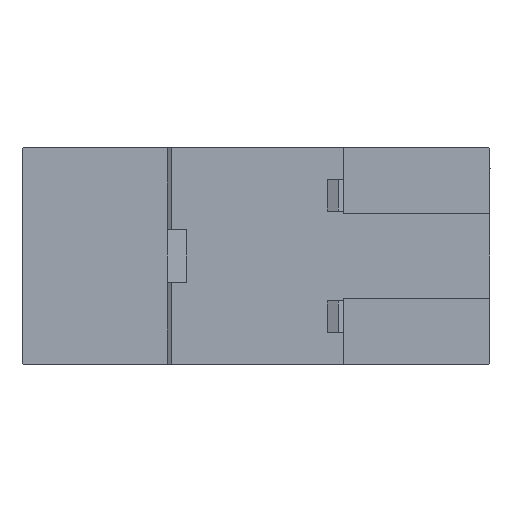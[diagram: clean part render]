
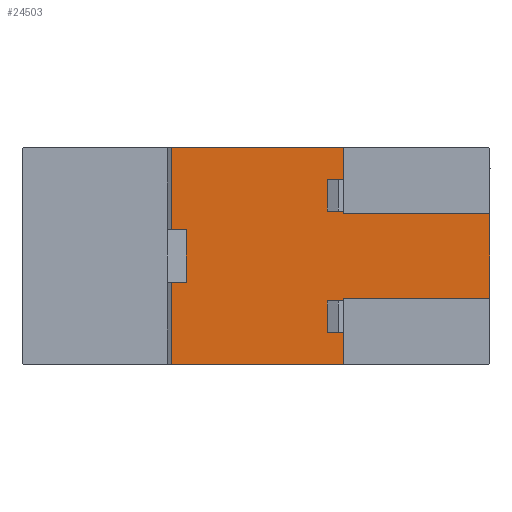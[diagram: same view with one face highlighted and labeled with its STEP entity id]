
A CAD part, front view. The second image highlights one B-rep face of the part: STEP entity #24503.
In plain terms, the highlighted planar face has unit normal (0, -1, 0).
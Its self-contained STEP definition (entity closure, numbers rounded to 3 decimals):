
#5246=DIRECTION('',(-1.,0.,0.));
#5247=VECTOR('',#5246,35.81);
#5248=CARTESIAN_POINT('',(23.334,29.906,20.5));
#5249=LINE('',#5248,#5247);
#5570=DIRECTION('',(0.,0.,-1.));
#5571=VECTOR('',#5570,0.5);
#5572=CARTESIAN_POINT('',(23.334,29.906,8.5));
#5573=LINE('',#5572,#5571);
#5577=DIRECTION('',(1.,0.,0.));
#5578=VECTOR('',#5577,24.44);
#5579=CARTESIAN_POINT('',(23.334,29.906,8.));
#5580=LINE('',#5579,#5578);
#5584=DIRECTION('',(0.,0.,-1.));
#5585=VECTOR('',#5584,16.);
#5586=CARTESIAN_POINT('',(47.774,29.906,8.));
#5587=LINE('',#5586,#5585);
#5591=DIRECTION('',(-1.,0.,0.));
#5592=VECTOR('',#5591,24.44);
#5593=CARTESIAN_POINT('',(47.774,29.906,-8.));
#5594=LINE('',#5593,#5592);
#5598=DIRECTION('',(0.,0.,-1.));
#5599=VECTOR('',#5598,0.5);
#5600=CARTESIAN_POINT('',(23.334,29.906,-8.));
#5601=LINE('',#5600,#5599);
#5605=DIRECTION('',(0.,0.,-1.));
#5606=VECTOR('',#5605,6.);
#5607=CARTESIAN_POINT('',(16.953,29.906,-8.5));
#5608=LINE('',#5607,#5606);
#5612=DIRECTION('',(1.,0.,0.));
#5613=VECTOR('',#5612,6.381);
#5614=CARTESIAN_POINT('',(16.953,29.906,-14.5));
#5615=LINE('',#5614,#5613);
#5619=DIRECTION('',(0.,0.,-1.));
#5620=VECTOR('',#5619,6.);
#5621=CARTESIAN_POINT('',(23.334,29.906,-14.5));
#5622=LINE('',#5621,#5620);
#5626=DIRECTION('',(0.,0.,-1.));
#5627=VECTOR('',#5626,6.);
#5628=CARTESIAN_POINT('',(16.953,29.906,14.5));
#5629=LINE('',#5628,#5627);
#5633=DIRECTION('',(1.,0.,0.));
#5634=VECTOR('',#5633,6.381);
#5635=CARTESIAN_POINT('',(16.953,29.906,8.5));
#5636=LINE('',#5635,#5634);
#5647=DIRECTION('',(0.,0.,1.));
#5648=VECTOR('',#5647,6.);
#5649=CARTESIAN_POINT('',(23.334,29.906,14.5));
#5650=LINE('',#5649,#5648);
#8575=DIRECTION('',(1.,0.,0.));
#8576=VECTOR('',#8575,35.81);
#8577=CARTESIAN_POINT('',(-12.476,29.906,-20.5));
#8578=LINE('',#8577,#8576);
#9319=DIRECTION('',(1.,0.,0.));
#9320=VECTOR('',#9319,6.381);
#9321=CARTESIAN_POINT('',(16.953,29.906,-8.5));
#9322=LINE('',#9321,#9320);
#13497=DIRECTION('',(0.,0.,-1.));
#13498=VECTOR('',#13497,41.);
#13499=CARTESIAN_POINT('',(-12.476,29.906,20.5));
#13500=LINE('',#13499,#13498);
#14190=DIRECTION('',(1.,0.,0.));
#14191=VECTOR('',#14190,6.381);
#14192=CARTESIAN_POINT('',(16.953,29.906,14.5));
#14193=LINE('',#14192,#14191);
#16606=CARTESIAN_POINT('',(23.334,29.906,20.5));
#16607=CARTESIAN_POINT('',(-12.476,29.906,20.5));
#16608=VERTEX_POINT('',#16606);
#16609=VERTEX_POINT('',#16607);
#16882=CARTESIAN_POINT('',(23.334,29.906,8.5));
#16883=CARTESIAN_POINT('',(23.334,29.906,8.));
#16884=VERTEX_POINT('',#16882);
#16885=VERTEX_POINT('',#16883);
#16886=CARTESIAN_POINT('',(47.774,29.906,8.));
#16887=VERTEX_POINT('',#16886);
#16888=CARTESIAN_POINT('',(47.774,29.906,-8.));
#16889=VERTEX_POINT('',#16888);
#16890=CARTESIAN_POINT('',(23.334,29.906,-8.));
#16891=VERTEX_POINT('',#16890);
#16892=CARTESIAN_POINT('',(23.334,29.906,-8.5));
#16893=VERTEX_POINT('',#16892);
#16894=CARTESIAN_POINT('',(16.953,29.906,-8.5));
#16895=VERTEX_POINT('',#16894);
#16896=CARTESIAN_POINT('',(16.953,29.906,-14.5));
#16897=VERTEX_POINT('',#16896);
#16898=CARTESIAN_POINT('',(23.334,29.906,-14.5));
#16899=VERTEX_POINT('',#16898);
#16900=CARTESIAN_POINT('',(23.334,29.906,-20.5));
#16901=VERTEX_POINT('',#16900);
#16902=CARTESIAN_POINT('',(-12.476,29.906,-20.5));
#16903=VERTEX_POINT('',#16902);
#16904=CARTESIAN_POINT('',(23.334,29.906,14.5));
#16905=VERTEX_POINT('',#16904);
#16906=CARTESIAN_POINT('',(16.953,29.906,14.5));
#16907=VERTEX_POINT('',#16906);
#16908=CARTESIAN_POINT('',(16.953,29.906,8.5));
#16909=VERTEX_POINT('',#16908);
#24465=CARTESIAN_POINT('',(-12.476,29.906,-20.5));
#24466=DIRECTION('',(0.,-1.,0.));
#24467=DIRECTION('',(1.,0.,0.));
#24468=AXIS2_PLACEMENT_3D('',#24465,#24466,#24467);
#24469=PLANE('',#24468);
#24471=ORIENTED_EDGE('',*,*,#24470,.T.);
#24473=ORIENTED_EDGE('',*,*,#24472,.T.);
#24475=ORIENTED_EDGE('',*,*,#24474,.T.);
#24477=ORIENTED_EDGE('',*,*,#24476,.T.);
#24479=ORIENTED_EDGE('',*,*,#24478,.T.);
#24481=ORIENTED_EDGE('',*,*,#24480,.F.);
#24483=ORIENTED_EDGE('',*,*,#24482,.T.);
#24485=ORIENTED_EDGE('',*,*,#24484,.T.);
#24487=ORIENTED_EDGE('',*,*,#24486,.T.);
#24489=ORIENTED_EDGE('',*,*,#24488,.F.);
#24491=ORIENTED_EDGE('',*,*,#24490,.F.);
#24492=ORIENTED_EDGE('',*,*,#24177,.F.);
#24494=ORIENTED_EDGE('',*,*,#24493,.F.);
#24496=ORIENTED_EDGE('',*,*,#24495,.F.);
#24498=ORIENTED_EDGE('',*,*,#24497,.T.);
#24500=ORIENTED_EDGE('',*,*,#24499,.T.);
#24501=EDGE_LOOP('',(#24471,#24473,#24475,#24477,#24479,#24481,#24483,#24485,
#24487,#24489,#24491,#24492,#24494,#24496,#24498,#24500));
#24502=FACE_OUTER_BOUND('',#24501,.F.);
#24503=ADVANCED_FACE('',(#24502),#24469,.T.);
#24177=EDGE_CURVE('',#16608,#16609,#5249,.T.);
#24470=EDGE_CURVE('',#16884,#16885,#5573,.T.);
#24472=EDGE_CURVE('',#16885,#16887,#5580,.T.);
#24474=EDGE_CURVE('',#16887,#16889,#5587,.T.);
#24476=EDGE_CURVE('',#16889,#16891,#5594,.T.);
#24478=EDGE_CURVE('',#16891,#16893,#5601,.T.);
#24480=EDGE_CURVE('',#16895,#16893,#9322,.T.);
#24482=EDGE_CURVE('',#16895,#16897,#5608,.T.);
#24484=EDGE_CURVE('',#16897,#16899,#5615,.T.);
#24486=EDGE_CURVE('',#16899,#16901,#5622,.T.);
#24488=EDGE_CURVE('',#16903,#16901,#8578,.T.);
#24490=EDGE_CURVE('',#16609,#16903,#13500,.T.);
#24493=EDGE_CURVE('',#16905,#16608,#5650,.T.);
#24495=EDGE_CURVE('',#16907,#16905,#14193,.T.);
#24497=EDGE_CURVE('',#16907,#16909,#5629,.T.);
#24499=EDGE_CURVE('',#16909,#16884,#5636,.T.);
